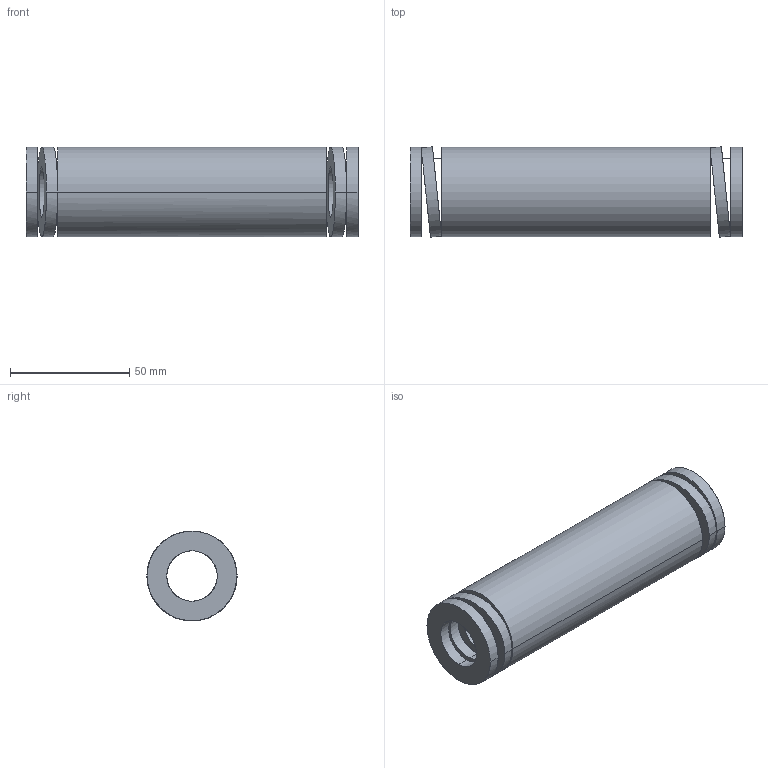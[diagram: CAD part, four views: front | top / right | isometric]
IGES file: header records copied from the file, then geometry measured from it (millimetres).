
Start section: START RECORD GO HERE.
Global section: file name: 392-B40-139.igs; native system: DASSAULT SYSTEMES CATIA V5 R20 - www.3ds.com; preprocessor: CATIA Version 5 Release 20 ; author: Utente; organization: NB04-ASUS; date: 20210813.131546; units: millimetre
Bounding box: 139 x 37.78 x 37.5 mm (x, y, z)
Surface area: 31687.5 mm2 (no closed solid volume)
Topology: 0 solids, 0 shells, 38 faces, 184 edges, 184 vertices
Faces by surface type: revolution 28, plane 10
